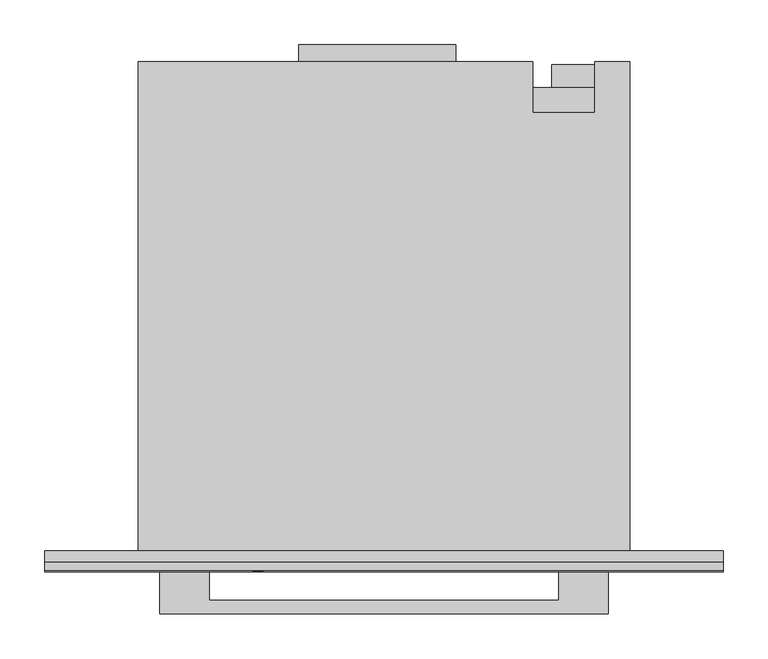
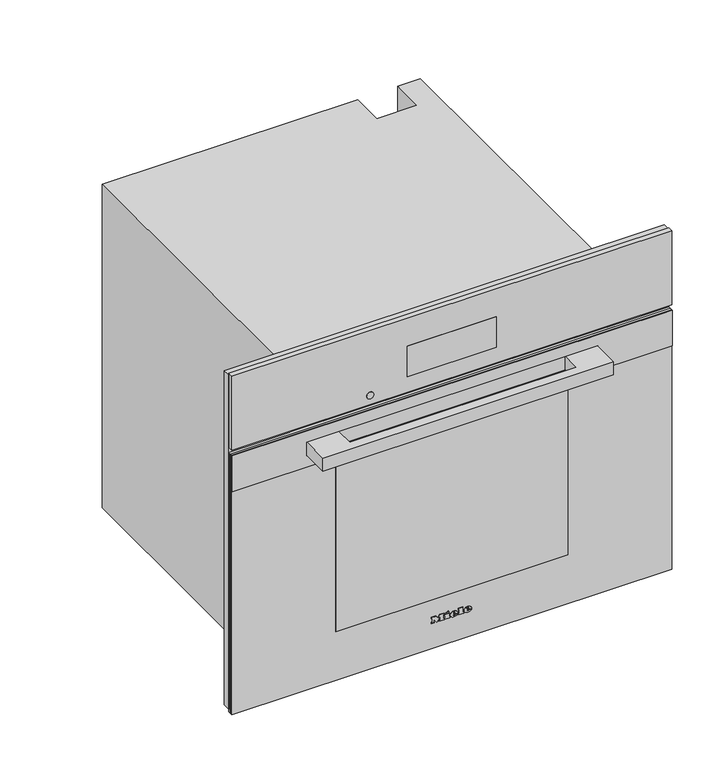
"""IFC4 building model written with IfcOpenShell, lengths in millimetres: proxy geometry, 11876350_USA_DGC7880_EDST-CLST : 23788043_USA_11876350_DGC7880_EDST-CLST."""

from ifc_helpers import new_model, si_unit, point, frame, frame_2d, origin, place, context, project, spatial, polyline, circle_curve, ellipse_curve, trimmed, segment, composite_curve, outline, extrude, faceted_brep, source, transform, mapped, element, save
from ifc_brep_helpers import plane_surface, cylinder_surface, revolved_surface, extruded_surface, advanced_brep


def specialty_equipment_2287f4bf(model_context):
    return source(origin(), model_context, "Body", "SolidModel", [
        faceted_brep([(378.5, -13.0, 617.0), (-378.5, -13.0, 617.0), (-378.5, -13.0, 9.0), (-272.5, -13.0, 9.0), (-272.5, -13.0, 485.0), (272.5, -13.0, 485.0), (272.5, -13.0, 9.0), (378.5, -13.0, 9.0), (378.5, 0.0, 617.0), (378.5, 0.0, 9.0), (-378.5, 0.0, 9.0), (-378.5, 0.0, 617.0), (231.0, 0.0, 61.0), (231.0, 0.0, 411.0), (-231.0, 0.0, 411.0), (-231.0, 0.0, 61.0), (272.5, -5.0, 9.0), (-272.5, -5.0, 9.0), (-272.5, -5.0, 485.0), (272.5, -5.0, 485.0), (231.0, -5.0, 411.0), (231.0, -5.0, 61.0), (-231.0, -5.0, 61.0), (-231.0, -5.0, 411.0)], [[[0, 1, 2, 3, 4, 5, 6, 7]], [[8, 9, 10, 11], [12, 13, 14, 15]], [[1, 0, 8, 11]], [[2, 1, 11, 10]], [[10, 9, 7, 6, 16, 17, 3, 2]], [[0, 7, 9, 8]], [[18, 19, 5, 4]], [[18, 4, 3, 17]], [[5, 19, 16, 6]], [[19, 18, 17, 16], [20, 21, 22, 23]], [[20, 13, 12, 21]], [[21, 12, 15, 22]], [[22, 15, 14, 23]], [[13, 20, 23, 14]]]),
        extrude(outline(polyline([(-95.0, 565.0), (80.0, 565.0), (80.0, 546.0), (-95.0, 546.0), (-95.0, 565.0)])), frame((0.0, 0.0, 311.0), z_axis=(0.0, 0.0, 1.0), x_axis=(1.0, 0.0, 0.0)), (0.0, 0.0, 1.0), 1.0),
        extrude(outline(polyline([(218.8383288, 522.0), (225.1236409, 522.0), (225.1236409, 511.9492425), (223.8571792, 511.9492425), (223.8571792, 520.7409796), (218.8383288, 520.7409796), (218.8383288, 522.0)])), frame((0.0, 0.0, 272.0), z_axis=(0.0, 0.0, 1.0), x_axis=(1.0, 0.0, 0.0)), (0.0, 0.0, 1.0), 1.0),
        extrude(outline(polyline([(227.0, 522.0), (234.3797826, 522.0), (234.3797826, 511.9503529), (227.15422, 511.9503529), (227.15422, 513.220938), (233.1355215, 513.220938), (233.1355215, 516.1975645), (227.4863097, 516.1975645), (227.4863097, 517.449242), (233.1355215, 517.449242), (233.1355215, 520.7448633), (227.0, 520.7448633), (227.0, 522.0)])), frame((0.0, 0.0, 272.0), z_axis=(0.0, 0.0, 1.0), x_axis=(1.0, 0.0, 0.0)), (0.0, 0.0, 1.0), 1.0),
        extrude(outline(composite_curve([segment(trimmed(circle_curve(frame_2d((227.0, 517.0)), 7.5), [point((219.5, 517.0))], [point((234.5, 517.0))], False, "CARTESIAN"), True, "CONTINUOUS"), segment(trimmed(circle_curve(frame_2d((227.0, 517.0)), 7.5), [point((234.5, 517.0))], [point((219.5, 517.0))], False, "CARTESIAN"), True, "CONTINUOUS")], self_intersect=False)), frame((0.0, 0.0, 273.0), z_axis=(0.0, 0.0, 1.0), x_axis=(1.0, 0.0, 0.0)), (0.0, 0.0, 1.0), 30.0),
        extrude(outline(polyline([(266.0, 517.0), (187.0, 517.0), (187.0, 543.0), (266.0, 543.0), (266.0, 517.0)])), frame((0.0, 0.0, 303.0), z_axis=(0.0, 0.0, 1.0), x_axis=(1.0, 0.0, 0.0)), (0.0, 0.0, 1.0), 111.0),
        faceted_brep([(-274.0, 546.0, 0.0), (-274.0, 546.0, 588.0), (166.0, 546.0, 588.0), (166.0, 546.0, 0.0), (235.0, 546.0, 588.0), (274.0, 546.0, 588.0), (274.0, 546.0, 478.0), (235.0, 546.0, 478.0), (274.0, 0.0, 588.0), (-274.0, 0.0, 588.0), (-274.0, 0.0, 0.0), (274.0, 0.0, 0.0), (231.0, 0.0, 411.0), (231.0, 0.0, 61.0), (-231.0, 0.0, 61.0), (-231.0, 0.0, 411.0), (235.0, 489.0, 588.0), (166.0, 489.0, 588.0), (166.0, 517.0, 0.0), (274.0, 517.0, 0.0), (274.0, 517.0, 478.0), (231.0, 411.0, 411.0), (-231.0, 411.0, 411.0), (-231.0, 411.0, 61.0), (231.0, 411.0, 61.0), (235.0, 489.0, 477.0), (166.0, 489.0, 477.0), (166.0, 517.0, 477.0), (235.0, 517.0, 477.0), (235.0, 517.0, 478.0)], [[[0, 1, 2, 3]], [[4, 5, 6, 7]], [[8, 9, 10, 11], [12, 13, 14, 15]], [[9, 8, 5, 4, 16, 17, 2, 1]], [[1, 0, 10, 9]], [[11, 10, 0, 3, 18, 19]], [[8, 11, 19, 20, 6, 5]], [[21, 22, 23, 24]], [[21, 24, 13, 12]], [[24, 23, 14, 13]], [[23, 22, 15, 14]], [[22, 21, 12, 15]], [[16, 25, 26, 17]], [[17, 26, 27, 18, 3, 2]], [[26, 25, 28, 27]], [[25, 16, 4, 7, 29, 28]], [[29, 20, 19, 18, 27, 28]], [[20, 29, 7, 6]]]),
        advanced_brep(
        [(26.2998, -23.0, 52.7018), (26.2998, -23.0, 53.8532), (33.9264, -23.0, 53.8532), (20.6568, -23.0, 53.8532), (23.7918, -23.0, 50.0), (33.7326, -23.0, 52.7018), (30.2898, -23.0, 52.7018), (27.5766, -23.0, 51.425), (26.2998, -23.0, 55.3124), (26.2998, -23.0, 56.555), (28.2492, -23.0, 56.555), (28.2492, -23.0, 55.3124), (26.2998, -22.0, 52.7018), (27.5766, -22.0, 51.425), (30.2898, -22.0, 52.7018), (33.7326, -22.0, 52.7018), (23.7918, -22.0, 50.0), (20.6568, -22.0, 53.8532), (33.9264, -22.0, 53.8532), (26.2998, -22.0, 53.8532), (26.2998, -22.0, 55.3124), (28.2492, -22.0, 55.3124), (28.2492, -22.0, 56.555), (26.2998, -22.0, 56.555)],
        [
            (0, 1),
            (1, 2),
            (2, 3, ellipse_curve(frame((27.2916, -23.0, 53.8532), z_axis=(0.0, -1.0, 0.0), x_axis=(-1.0, 0.0, 0.0)), 6.6348, 5.4834)),
            (3, 4, circle_curve(frame((25.0686622, -23.0, 54.2408), z_axis=(0.0, -1.0, 0.0), x_axis=(0.0, 0.0, -1.0)), 4.4288556)),
            (4, 5, circle_curve(frame((27.1587808, -23.0, 57.2504), z_axis=(0.0, -1.0, 0.0), x_axis=(0.0, 0.0, -1.0)), 7.9940516)),
            (5, 6),
            (6, 7, circle_curve(frame((28.1338588, -23.0, 53.762), z_axis=(0.0, 1.0, 0.0), x_axis=(0.0, 0.0, -1.0)), 2.4025208)),
            (7, 0, circle_curve(frame((27.5766, -23.0, 52.7018), z_axis=(0.0, 1.0, 0.0), x_axis=(0.0, 0.0, -1.0)), 1.2768)),
            (8, 9),
            (9, 10, circle_curve(frame((27.2745, -23.0, 56.555), z_axis=(0.0, 1.0, 0.0), x_axis=(0.0, 0.0, -1.0)), 0.9747)),
            (10, 11),
            (11, 8),
            (12, 13, circle_curve(frame((27.5766, -22.0, 52.7018), z_axis=(0.0, -1.0, 0.0), x_axis=(0.0, 0.0, -1.0)), 1.2768)),
            (13, 14, circle_curve(frame((28.1338588, -22.0, 53.762), z_axis=(0.0, -1.0, 0.0), x_axis=(0.0, 0.0, -1.0)), 2.4025208)),
            (14, 15),
            (15, 16, circle_curve(frame((27.1587808, -22.0, 57.2504), z_axis=(0.0, 1.0, 0.0), x_axis=(0.0, 0.0, -1.0)), 7.9940516)),
            (16, 17, circle_curve(frame((25.0686622, -22.0, 54.2408), z_axis=(0.0, 1.0, 0.0), x_axis=(0.0, 0.0, -1.0)), 4.4288556)),
            (17, 18, ellipse_curve(frame((27.2916, -22.0, 53.8532), z_axis=(0.0, 1.0, 0.0), x_axis=(-1.0, 0.0, 0.0)), 6.6348, 5.4834)),
            (18, 19),
            (19, 12),
            (20, 21),
            (21, 22),
            (22, 23, circle_curve(frame((27.2745, -22.0, 56.555), z_axis=(0.0, -1.0, 0.0), x_axis=(0.0, 0.0, -1.0)), 0.9747)),
            (23, 20),
            (0, 12),
            (19, 1),
            (18, 2),
            (5, 15),
            (14, 6),
            (17, 3),
            (13, 7),
            (16, 4),
            (8, 20),
            (23, 9),
            (22, 10),
            (21, 11),
        ],
        [
            plane_surface(frame((26.2998, -23.0, 53.8532), z_axis=(0.0, -1.0, 0.0), x_axis=(0.0, 0.0, 1.0))),
            plane_surface(frame((26.2998, -22.0, 53.8532), z_axis=(0.0, 1.0, 0.0), x_axis=(0.0, 0.0, -1.0))),
            plane_surface(frame((26.2998, -23.0, 52.7018), z_axis=(1.0, 0.0, 0.0), x_axis=(0.0, 1.0, 0.0))),
            plane_surface(frame((26.2998, -23.0, 53.8532), z_axis=(0.0, 0.0, -1.0), x_axis=(0.0, 1.0, 0.0))),
            plane_surface(frame((33.7326, -23.0, 52.7018), z_axis=(0.0, 0.0, 1.0), x_axis=(0.0, 1.0, 0.0))),
            extruded_surface(trimmed(ellipse_curve(frame((27.2916, -21.0, 53.8532), z_axis=(0.0, -1.0, 0.0), x_axis=(-1.0, 0.0, 0.0)), 6.6348, 5.4834), [point((33.9264, -21.0, 53.8532))], [point((20.6568, -21.0, 53.8532))], True, "CARTESIAN"), (0.0, -1.0, 0.0), 1.0),
            revolved_surface(polyline([(28.1338588, -22.0, 51.3594792), (28.1338588, -23.0, 51.3594792)]), (28.1338588, -22.0, 53.762), (0.0, 1.0, 0.0)),
            revolved_surface(polyline([(27.5766, -22.0, 51.425), (27.5766, -23.0, 51.425)]), (27.5766, -22.0, 52.7018), (0.0, 1.0, 0.0)),
            cylinder_surface(frame((25.0686622, -22.0, 54.2408), z_axis=(0.0, -1.0, 0.0), x_axis=(0.0, 0.0, -1.0)), 4.4288556),
            cylinder_surface(frame((27.1587808, -22.0, 57.2504), z_axis=(0.0, -1.0, 0.0), x_axis=(0.0, 0.0, -1.0)), 7.9940516),
            plane_surface(frame((26.2998, -23.0, 55.3124), z_axis=(1.0, 0.0, 0.0), x_axis=(0.0, 1.0, 0.0))),
            revolved_surface(polyline([(27.2745, -22.0, 55.5803), (27.2745, -23.0, 55.5803)]), (27.2745, -22.0, 56.555), (0.0, 1.0, 0.0)),
            plane_surface(frame((28.2492, -23.0, 56.555), z_axis=(-1.0, 0.0, 0.0), x_axis=(0.0, 1.0, 0.0))),
            plane_surface(frame((28.2492, -23.0, 55.3124), z_axis=(0.0, 0.0, 1.0), x_axis=(0.0, 1.0, 0.0))),
        ],
        [
            (0, [[1, 2, 3, 4, 5, 6, 7, 8], [9, 10, 11, 12]]),
            (1, [[13, 14, 15, 16, 17, 18, 19, 20], [21, 22, 23, 24]]),
            (2, [[-1, 25, -20, 26]]),
            (3, [[-2, -26, -19, 27]]),
            (4, [[-6, 28, -15, 29]]),
            (5, [[-3, -27, -18, 30]]),
            (6, [[-7, -29, -14, 31]]),
            (7, [[-8, -31, -13, -25]]),
            (8, [[-4, -30, -17, 32]]),
            (9, [[-5, -32, -16, -28]]),
            (10, [[-9, 33, -24, 34]]),
            (11, [[-10, -34, -23, 35]]),
            (12, [[-11, -35, -22, 36]]),
            (13, [[-12, -36, -21, -33]]),
        ],
    ),
        advanced_brep(
        [(2.508, -23.0, 52.7018), (2.508, -23.0, 53.8532), (10.1346, -23.0, 53.8532), (-3.135, -23.0, 53.8532), (0.0, -23.0, 50.0), (9.9408, -23.0, 52.7018), (6.498, -23.0, 52.7018), (3.7848, -23.0, 51.425), (2.508, -23.0, 55.3124), (2.508, -23.0, 56.555), (4.4574, -23.0, 56.555), (4.4574, -23.0, 55.3124), (2.508, -22.0, 52.7018), (3.7848, -22.0, 51.425), (6.498, -22.0, 52.7018), (9.9408, -22.0, 52.7018), (0.0, -22.0, 50.0), (-3.135, -22.0, 53.8532), (10.1346, -22.0, 53.8532), (2.508, -22.0, 53.8532), (2.508, -22.0, 55.3124), (4.4574, -22.0, 55.3124), (4.4574, -22.0, 56.555), (2.508, -22.0, 56.555)],
        [
            (0, 1),
            (1, 2),
            (2, 3, ellipse_curve(frame((3.4998, -23.0, 53.8532), z_axis=(0.0, -1.0, 0.0), x_axis=(-1.0, 0.0, 0.0)), 6.6348, 5.4834)),
            (3, 4, circle_curve(frame((1.2768622, -23.0, 54.2408), z_axis=(0.0, -1.0, 0.0), x_axis=(0.0, 0.0, -1.0)), 4.4288556)),
            (4, 5, circle_curve(frame((3.3669808, -23.0, 57.2504), z_axis=(0.0, -1.0, 0.0), x_axis=(0.0, 0.0, -1.0)), 7.9940516)),
            (5, 6),
            (6, 7, circle_curve(frame((4.3420588, -23.0, 53.762), z_axis=(0.0, 1.0, 0.0), x_axis=(0.0, 0.0, -1.0)), 2.4025208)),
            (7, 0, circle_curve(frame((3.7848, -23.0, 52.7018), z_axis=(0.0, 1.0, 0.0), x_axis=(0.0, 0.0, -1.0)), 1.2768)),
            (8, 9),
            (9, 10, circle_curve(frame((3.4827, -23.0, 56.555), z_axis=(0.0, 1.0, 0.0), x_axis=(0.0, 0.0, -1.0)), 0.9747)),
            (10, 11),
            (11, 8),
            (12, 13, circle_curve(frame((3.7848, -22.0, 52.7018), z_axis=(0.0, -1.0, 0.0), x_axis=(0.0, 0.0, -1.0)), 1.2768)),
            (13, 14, circle_curve(frame((4.3420588, -22.0, 53.762), z_axis=(0.0, -1.0, 0.0), x_axis=(0.0, 0.0, -1.0)), 2.4025208)),
            (14, 15),
            (15, 16, circle_curve(frame((3.3669808, -22.0, 57.2504), z_axis=(0.0, 1.0, 0.0), x_axis=(0.0, 0.0, -1.0)), 7.9940516)),
            (16, 17, circle_curve(frame((1.2768622, -22.0, 54.2408), z_axis=(0.0, 1.0, 0.0), x_axis=(0.0, 0.0, -1.0)), 4.4288556)),
            (17, 18, ellipse_curve(frame((3.4998, -22.0, 53.8532), z_axis=(0.0, 1.0, 0.0), x_axis=(-1.0, 0.0, 0.0)), 6.6348, 5.4834)),
            (18, 19),
            (19, 12),
            (20, 21),
            (21, 22),
            (22, 23, circle_curve(frame((3.4827, -22.0, 56.555), z_axis=(0.0, -1.0, 0.0), x_axis=(0.0, 0.0, -1.0)), 0.9747)),
            (23, 20),
            (0, 12),
            (19, 1),
            (18, 2),
            (5, 15),
            (14, 6),
            (17, 3),
            (13, 7),
            (16, 4),
            (8, 20),
            (23, 9),
            (22, 10),
            (21, 11),
        ],
        [
            plane_surface(frame((2.508, -23.0, 53.8532), z_axis=(0.0, -1.0, 0.0), x_axis=(0.0, 0.0, 1.0))),
            plane_surface(frame((2.508, -22.0, 53.8532), z_axis=(0.0, 1.0, 0.0), x_axis=(0.0, 0.0, -1.0))),
            plane_surface(frame((2.508, -23.0, 52.7018), z_axis=(1.0, 0.0, 0.0), x_axis=(0.0, 1.0, 0.0))),
            plane_surface(frame((2.508, -23.0, 53.8532), z_axis=(0.0, 0.0, -1.0), x_axis=(0.0, 1.0, 0.0))),
            plane_surface(frame((9.9408, -23.0, 52.7018), z_axis=(0.0, 0.0, 1.0), x_axis=(0.0, 1.0, 0.0))),
            extruded_surface(trimmed(ellipse_curve(frame((3.4998, -21.0, 53.8532), z_axis=(0.0, -1.0, 0.0), x_axis=(-1.0, 0.0, 0.0)), 6.6348, 5.4834), [point((10.1346, -21.0, 53.8532))], [point((-3.135, -21.0, 53.8532))], True, "CARTESIAN"), (0.0, -1.0, 0.0), 1.0),
            revolved_surface(polyline([(4.3420588, -22.0, 51.3594792), (4.3420588, -23.0, 51.3594792)]), (4.3420588, -22.0, 53.762), (0.0, 1.0, 0.0)),
            revolved_surface(polyline([(3.7848, -22.0, 51.425), (3.7848, -23.0, 51.425)]), (3.7848, -22.0, 52.7018), (0.0, 1.0, 0.0)),
            cylinder_surface(frame((1.2768622, -22.0, 54.2408), z_axis=(0.0, -1.0, 0.0), x_axis=(0.0, 0.0, -1.0)), 4.4288556),
            cylinder_surface(frame((3.3669808, -22.0, 57.2504), z_axis=(0.0, -1.0, 0.0), x_axis=(0.0, 0.0, -1.0)), 7.9940516),
            plane_surface(frame((2.508, -23.0, 55.3124), z_axis=(1.0, 0.0, 0.0), x_axis=(0.0, 1.0, 0.0))),
            revolved_surface(polyline([(3.4827, -22.0, 55.5803), (3.4827, -23.0, 55.5803)]), (3.4827, -22.0, 56.555), (0.0, 1.0, 0.0)),
            plane_surface(frame((4.4574, -23.0, 56.555), z_axis=(-1.0, 0.0, 0.0), x_axis=(0.0, 1.0, 0.0))),
            plane_surface(frame((4.4574, -23.0, 55.3124), z_axis=(0.0, 0.0, 1.0), x_axis=(0.0, 1.0, 0.0))),
        ],
        [
            (0, [[1, 2, 3, 4, 5, 6, 7, 8], [9, 10, 11, 12]]),
            (1, [[13, 14, 15, 16, 17, 18, 19, 20], [21, 22, 23, 24]]),
            (2, [[-1, 25, -20, 26]]),
            (3, [[-2, -26, -19, 27]]),
            (4, [[-6, 28, -15, 29]]),
            (5, [[-3, -27, -18, 30]]),
            (6, [[-7, -29, -14, 31]]),
            (7, [[-8, -31, -13, -25]]),
            (8, [[-4, -30, -17, 32]]),
            (9, [[-5, -32, -16, -28]]),
            (10, [[-9, 33, -24, 34]]),
            (11, [[-10, -34, -23, 35]]),
            (12, [[-11, -35, -22, 36]]),
            (13, [[-12, -36, -21, -33]]),
        ],
    ),
        extrude(outline(polyline([(60.7274, -9.9522), (58.8806, -9.0858), (60.6818, -5.2212), (62.5286, -6.0762), (60.7274, -9.9522)])), frame((0.0, -23.0, 0.0), z_axis=(0.0, 1.0, 0.0), x_axis=(0.0, 0.0, 1.0)), (0.0, 0.0, 1.0), 1.0),
        extrude(outline(polyline([(58.6298, -12.768), (56.5892, -12.768), (56.5892, -11.4114), (51.9152, -11.4114), (51.9152, -12.768), (50.0, -12.768), (50.0, -3.7734), (51.9152, -3.7734), (51.9152, -5.0958), (58.6298, -5.0958), (58.6298, -12.768)])), frame((0.0, -23.0, 0.0), z_axis=(0.0, 1.0, 0.0), x_axis=(0.0, 0.0, 1.0)), (0.0, 0.0, 1.0), 1.0),
        extrude(outline(polyline([(59.5418, 10.773), (59.5418, 12.141), (51.9152, 12.141), (51.9152, 10.773), (50.0, 10.773), (50.0, 20.0184), (51.9152, 20.0184), (51.9152, 18.6162), (61.4, 18.6162), (61.4, 10.773), (59.5418, 10.773)])), frame((0.0, -23.0, 0.0), z_axis=(0.0, 1.0, 0.0), x_axis=(0.0, 0.0, 1.0)), (0.0, 0.0, 1.0), 1.0),
        extrude(outline(polyline([(59.5418, -35.4882), (59.5418, -34.1088), (51.9152, -34.1088), (51.9152, -35.4882), (50.0, -35.4882), (50.0, -30.4722), (51.9152, -30.4722), (51.9152, -31.8402), (56.7429247, -31.8402), (50.0, -26.7444), (56.9402223, -21.6258), (51.9152, -21.6258), (51.9152, -23.028), (50.0, -23.028), (50.0, -13.9308), (51.9152, -13.9308), (51.9152, -15.3786), (59.5418, -15.3786), (59.5418, -13.9308), (61.4, -13.9308), (61.4, -20.8734), (57.125, -24.2022), (61.4, -27.5424), (61.4, -35.4882), (59.5418, -35.4882)])), frame((0.0, -23.0, 0.0), z_axis=(0.0, 1.0, 0.0), x_axis=(0.0, 0.0, 1.0)), (0.0, 0.0, 1.0), 1.0),
        extrude(outline(composite_curve([segment(trimmed(circle_curve(frame_2d((502.0, -140.5745637)), 6.0), [point((502.0, -146.5745637))], [point((502.0, -134.5745637))], False, "CARTESIAN"), True, "CONTINUOUS"), segment(trimmed(circle_curve(frame_2d((502.0, -140.5745637)), 6.0), [point((502.0, -134.5745637))], [point((502.0, -146.5745637))], False, "CARTESIAN"), True, "CONTINUOUS")], self_intersect=False)), frame((0.0, -22.5, 0.0), z_axis=(0.0, 1.0, 0.0), x_axis=(0.0, 0.0, 1.0)), (0.0, 0.0, 1.0), 1.0),
        extrude(outline(polyline([(-76.5, -21.0), (76.5, -21.0), (76.5, -22.0), (-76.5, -22.0), (-76.5, -21.0)])), frame((0.0, 0.0, 513.0), z_axis=(0.0, 0.0, 1.0), x_axis=(1.0, 0.0, 0.0)), (0.0, 0.0, 1.0), 56.0),
        faceted_brep([(378.5, -22.0, 620.0), (-378.5, -22.0, 620.0), (-378.5, -22.0, 485.0), (378.5, -22.0, 485.0), (76.5, -22.0, 569.0), (76.5, -22.0, 513.0), (-76.5, -22.0, 513.0), (-76.5, -22.0, 569.0), (378.5, -13.0, 620.0), (378.5, -13.0, 485.0), (-378.5, -13.0, 485.0), (-378.5, -13.0, 620.0), (76.5, -21.0, 569.0), (-76.5, -21.0, 569.0), (-76.5, -21.0, 513.0), (76.5, -21.0, 513.0)], [[[0, 1, 2, 3], [4, 5, 6, 7]], [[8, 9, 10, 11]], [[1, 0, 8, 11]], [[2, 1, 11, 10]], [[3, 2, 10, 9]], [[0, 3, 9, 8]], [[12, 13, 14, 15]], [[12, 15, 5, 4]], [[15, 14, 6, 5]], [[14, 13, 7, 6]], [[13, 12, 4, 7]]]),
        extrude(outline(polyline([(200.0, -22.0), (-200.0, -22.0), (-200.0, -18.0), (200.0, -18.0), (200.0, -22.0)])), frame((0.0, 0.0, 92.5), z_axis=(0.0, 0.0, 1.0), x_axis=(1.0, 0.0, 0.0)), (0.0, 0.0, 1.0), 300.0),
        extrude(outline(polyline([(476.0, 378.5), (476.0, -378.5), (4.0, -378.5), (4.0, 378.5), (476.0, 378.5)]), holes=[polyline([(392.5, -200.0), (392.5, 200.0), (92.5, 200.0), (92.5, -200.0), (392.5, -200.0)])]), frame((0.0, -22.0, 0.0), z_axis=(0.0, 1.0, 0.0), x_axis=(0.0, 0.0, 1.0)), (0.0, 0.0, 1.0), 4.0),
        extrude(outline(polyline([(476.0, 378.5), (476.0, -378.5), (411.0, -378.5), (411.0, 378.5), (476.0, 378.5)]), holes=[polyline([(456.0, -250.5), (456.0, 250.5), (431.0, 250.5), (431.0, -250.5), (456.0, -250.5)])]), frame((0.0, -23.3, 0.0), z_axis=(0.0, 1.0, 0.0), x_axis=(0.0, 0.0, 1.0)), (0.0, 0.0, 1.0), 1.3),
        extrude(outline(polyline([(-250.0, -70.3), (-250.0, -22.0), (-195.0, -22.0), (-195.0, -55.3), (195.0, -55.3), (195.0, -22.0), (250.0, -22.0), (250.0, -70.3), (-250.0, -70.3)])), frame((0.0, 0.0, 431.5), z_axis=(0.0, 0.0, 1.0), x_axis=(1.0, 0.0, 0.0)), (0.0, 0.0, 1.0), 24.0),
        extrude(outline(polyline([(378.5, -18.0), (-378.5, -18.0), (-378.5, -13.0), (378.5, -13.0), (378.5, -18.0)])), frame((0.0, 0.0, 4.0), z_axis=(0.0, 0.0, 1.0), x_axis=(1.0, 0.0, 0.0)), (0.0, 0.0, 1.0), 472.0),
    ])


if __name__ == "__main__":
    model = new_model("IFC4")
    model_context = context("Model", 3, world=origin())
    ifc_project = project(units=[si_unit("LENGTHUNIT", "METRE", prefix="MILLI")], contexts=[model_context])
    site = spatial("IfcSite", under=ifc_project)
    building = spatial("IfcBuilding", under=site)
    placement = place(None, origin())
    specialty_equipment_shape = specialty_equipment_2287f4bf(model_context)
    element("IfcBuildingElementProxy", 1, Name="11876350_USA_DGC7880_EDST-CLST : 23788043_USA_11876350_DGC7880_EDST-CLST", ObjectType="11876350_USA_DGC7880_EDST-CLST : 23788043_USA_11876350_DGC7880_EDST-CLST", at=placement, inside=building, context=model_context, shape_type="MappedRepresentation", body=[
        mapped(specialty_equipment_shape, transform((0.0, 0.0, 0.0), x_axis=(1.0, 0.0, 0.0), y_axis=(0.0, 1.0, 0.0), z_axis=(0.0, 0.0, 1.0))),
    ])
    save(model, "model.ifc")
